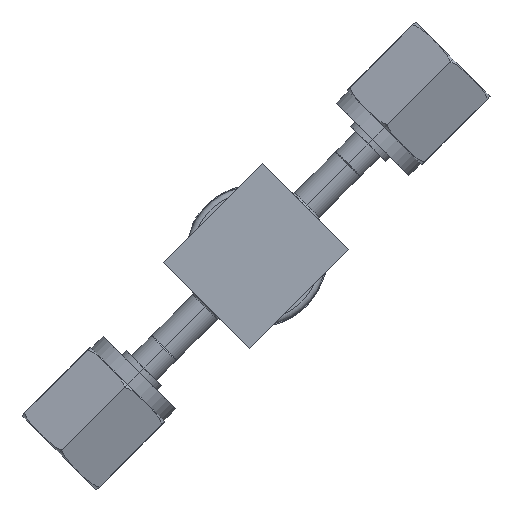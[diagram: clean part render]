
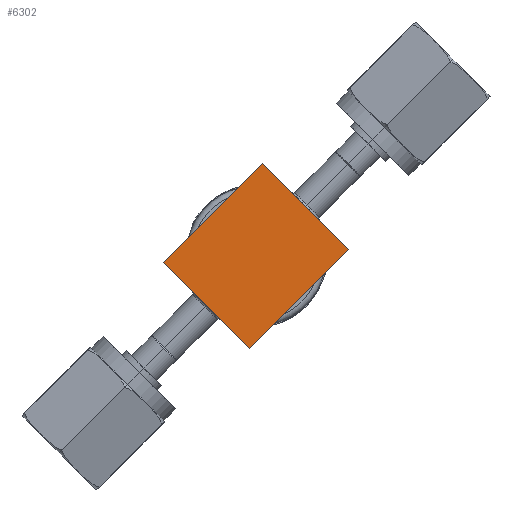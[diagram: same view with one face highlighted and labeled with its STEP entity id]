
A CAD part, front view. The second image highlights one B-rep face of the part: STEP entity #6302.
In plain terms, the highlighted planar face has unit normal (0, -1, 0) as drawn and (0, 0, -1) by its records, which use the part's own axes.
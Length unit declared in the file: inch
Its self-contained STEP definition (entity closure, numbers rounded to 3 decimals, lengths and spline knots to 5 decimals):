
#769 = VERTEX_POINT ( 'NONE', #13862 ) ;
#1028 = EDGE_CURVE ( 'NONE', #3930, #13785, #4924, .T. ) ;
#1542 = PLANE ( 'NONE',  #6799 ) ;
#1591 = VECTOR ( 'NONE', #2096, 39.37008 ) ;
#1605 = DIRECTION ( 'NONE',  ( 0., -1., 0. ) ) ;
#2096 = DIRECTION ( 'NONE',  ( -1., 0., 0. ) ) ;
#2155 = CARTESIAN_POINT ( 'NONE',  ( 0.5, 0.4375, 0. ) ) ;
#2592 = VECTOR ( 'NONE', #4935, 39.37008 ) ;
#2601 = FACE_OUTER_BOUND ( 'NONE', #5965, .T. ) ;
#2950 = CARTESIAN_POINT ( 'NONE',  ( -0.5, -0.4375, 0. ) ) ;
#3723 = EDGE_CURVE ( 'NONE', #769, #13785, #11728, .T. ) ;
#3930 = VERTEX_POINT ( 'NONE', #12183 ) ;
#4244 = ORIENTED_EDGE ( 'NONE', *, *, #3723, .T. ) ;
#4429 = VERTEX_POINT ( 'NONE', #2155 ) ;
#4657 = DIRECTION ( 'NONE',  ( 1., 0., 0. ) ) ;
#4796 = CARTESIAN_POINT ( 'NONE',  ( -0.5, 0.4375, 0. ) ) ;
#4924 = LINE ( 'NONE', #8217, #10770 ) ;
#4935 = DIRECTION ( 'NONE',  ( 0., 1., 0. ) ) ;
#5965 = EDGE_LOOP ( 'NONE', ( #7161, #11327, #8882, #4244 ) ) ;
#6154 = CARTESIAN_POINT ( 'NONE',  ( -0.5, -0.4375, 0. ) ) ;
#6302 = ADVANCED_FACE ( 'NONE', ( #2601 ), #1542, .T. ) ;
#6799 = AXIS2_PLACEMENT_3D ( 'NONE', #2950, #12372, #13509 ) ;
#7161 = ORIENTED_EDGE ( 'NONE', *, *, #1028, .F. ) ;
#8217 = CARTESIAN_POINT ( 'NONE',  ( -0.5, 0.4375, 0. ) ) ;
#8563 = CARTESIAN_POINT ( 'NONE',  ( 0.5, -0.4375, 0. ) ) ;
#8882 = ORIENTED_EDGE ( 'NONE', *, *, #12370, .F. ) ;
#9427 = LINE ( 'NONE', #10624, #2592 ) ;
#10624 = CARTESIAN_POINT ( 'NONE',  ( 0.5, -0.4375, 0. ) ) ;
#10770 = VECTOR ( 'NONE', #1605, 39.37008 ) ;
#11139 = VECTOR ( 'NONE', #4657, 39.37008 ) ;
#11327 = ORIENTED_EDGE ( 'NONE', *, *, #13267, .T. ) ;
#11728 = LINE ( 'NONE', #8563, #1591 ) ;
#12183 = CARTESIAN_POINT ( 'NONE',  ( -0.5, 0.4375, 0. ) ) ;
#12370 = EDGE_CURVE ( 'NONE', #769, #4429, #9427, .T. ) ;
#12372 = DIRECTION ( 'NONE',  ( 0., 0., -1. ) ) ;
#13267 = EDGE_CURVE ( 'NONE', #3930, #4429, #13442, .T. ) ;
#13442 = LINE ( 'NONE', #4796, #11139 ) ;
#13509 = DIRECTION ( 'NONE',  ( -1., 0., 0. ) ) ;
#13785 = VERTEX_POINT ( 'NONE', #6154 ) ;
#13862 = CARTESIAN_POINT ( 'NONE',  ( 0.5, -0.4375, 0. ) ) ;
